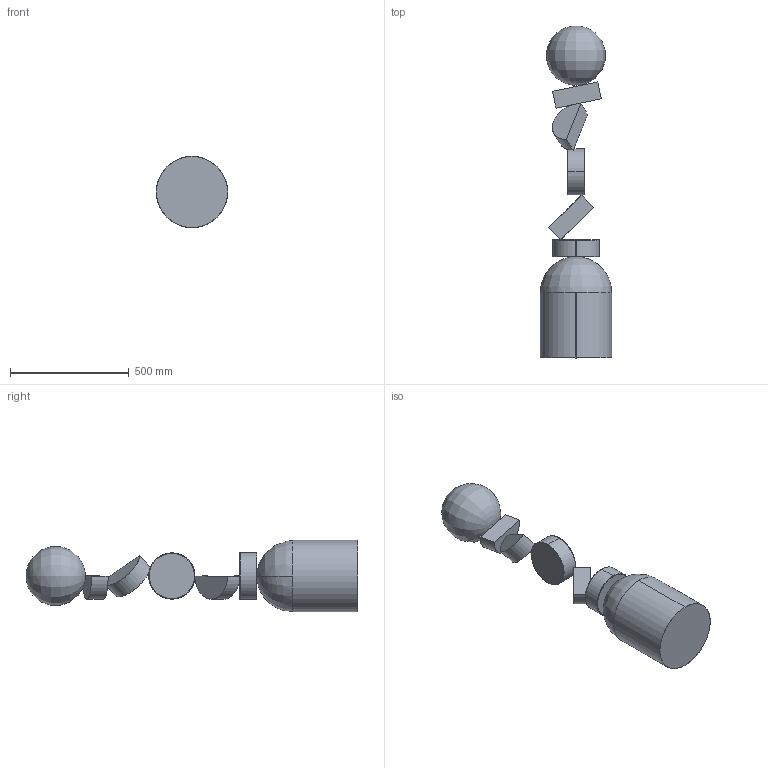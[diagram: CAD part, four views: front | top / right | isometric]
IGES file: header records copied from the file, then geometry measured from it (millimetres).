
Start section: SolidWorks IGES file using analytic representation for surfaces
Global section: file name: F:\燠隴矨\3D\2025-7\Monolith Cube Floor Lamp.IGS,15; native system: HSolidWorks 2022; preprocessor: SolidWorks 2022; author: MyPC; date: 250706.173244; units: millimetre
Bounding box: 300 x 1400.03 x 300 mm (x, y, z)
Surface area: 1268817.1 mm2 (no closed solid volume)
Topology: 0 solids, 0 shells, 35 faces, 616 edges, 613 vertices
Faces by surface type: bspline 22, revolution 13
